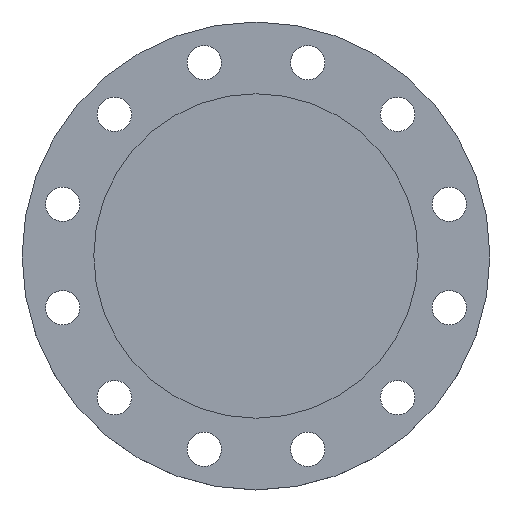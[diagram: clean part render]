
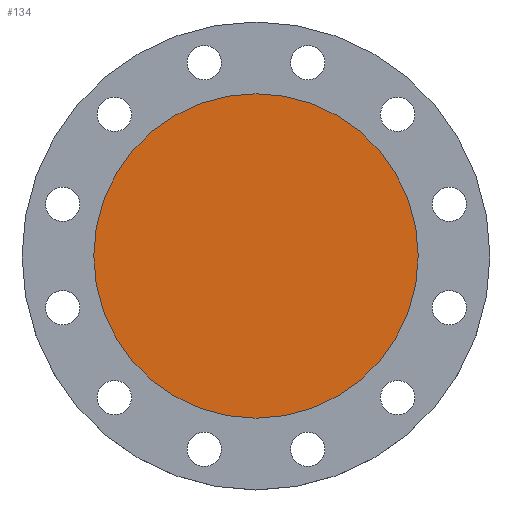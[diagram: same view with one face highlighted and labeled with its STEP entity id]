
A CAD part, top view. The second image highlights one B-rep face of the part: STEP entity #134.
In plain terms, the highlighted planar face has unit normal (0, 0, 1).
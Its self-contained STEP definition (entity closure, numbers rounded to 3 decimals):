
#21 = AXIS2_PLACEMENT_3D ( 'NONE', #486, #485, #484 ) ;
#134 = ADVANCED_FACE ( 'NONE', ( #563 ), #572, .T. ) ;
#338 = CARTESIAN_POINT ( 'NONE',  ( -156., 0., 0. ) ) ;
#351 = CARTESIAN_POINT ( 'NONE',  ( 156., 0., 0. ) ) ;
#381 = AXIS2_PLACEMENT_3D ( 'NONE', #526, #524, #523 ) ;
#484 = DIRECTION ( 'NONE',  ( -1., 0., 0. ) ) ;
#485 = DIRECTION ( 'NONE',  ( 0., 0., -1. ) ) ;
#486 = CARTESIAN_POINT ( 'NONE',  ( 0., 0., 0. ) ) ;
#523 = DIRECTION ( 'NONE',  ( -1., 0., 0. ) ) ;
#524 = DIRECTION ( 'NONE',  ( 0., 0., -1. ) ) ;
#526 = CARTESIAN_POINT ( 'NONE',  ( 0., 0., 0. ) ) ;
#541 = CIRCLE ( 'NONE', #381, 156. ) ;
#563 = FACE_OUTER_BOUND ( 'NONE', #925, .T. ) ;
#567 = CARTESIAN_POINT ( 'NONE',  ( 0., 0., 0. ) ) ;
#570 = AXIS2_PLACEMENT_3D ( 'NONE', #567, #584, #583 ) ;
#572 = PLANE ( 'NONE',  #570 ) ;
#583 = DIRECTION ( 'NONE',  ( 1., 0., 0. ) ) ;
#584 = DIRECTION ( 'NONE',  ( 0., 0., 1. ) ) ;
#615 = EDGE_CURVE ( 'NONE', #815, #785, #541, .T. ) ;
#655 = ORIENTED_EDGE ( 'NONE', *, *, #615, .F. ) ;
#657 = ORIENTED_EDGE ( 'NONE', *, *, #665, .F. ) ;
#665 = EDGE_CURVE ( 'NONE', #785, #815, #877, .T. ) ;
#785 = VERTEX_POINT ( 'NONE', #351 ) ;
#815 = VERTEX_POINT ( 'NONE', #338 ) ;
#877 = CIRCLE ( 'NONE', #21, 156. ) ;
#925 = EDGE_LOOP ( 'NONE', ( #655, #657 ) ) ;
